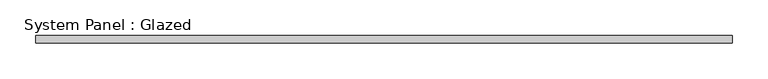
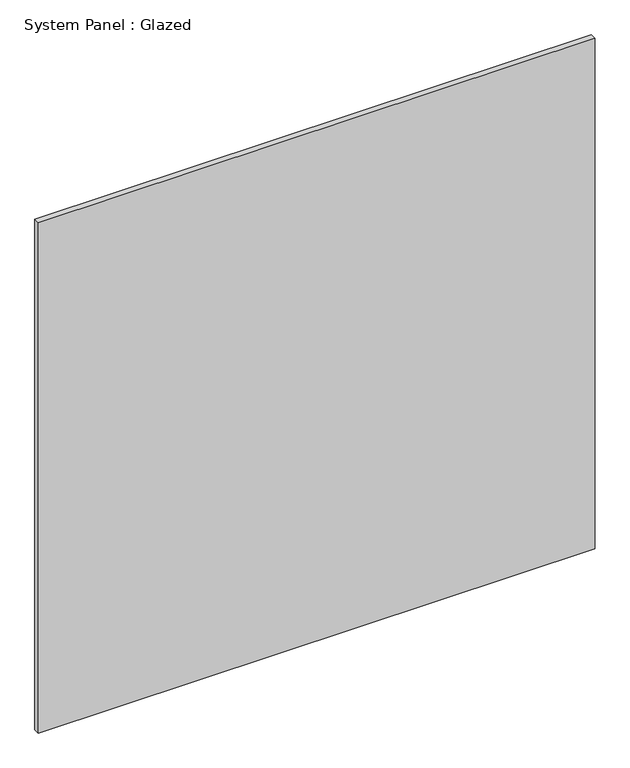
"""IFC4 building model written with IfcOpenShell, lengths in millimetres: plate geometry, System Panel : Glazed."""

import ifcopenshell
import ifcopenshell.guid

model = None  # the IFC model being written
_history = None  # IfcOwnerHistory: only IFC2X3 demands one
_inside = {}  # id of a spatial element -> (the spatial element, [elements in it])
_under = {}  # id of a project, library or spatial element -> (it, [spatial elements below it])
_declared = {}  # id of a project -> (the project, [libraries it declares])
_typed = {}  # id of a type object -> (the type object, [elements of that type])
_made_of = {}  # id of a material, layer set ... -> (it, [elements and type objects made of it])


def new_model(schema):
    """Start an empty IFC model of exactly this schema.

    Asked for "IFC4X3", IfcOpenShell would pick the latest addendum, in which some entities
    have other attributes; the version numbers below select the first issue.
    IFC2X3 requires an IfcOwnerHistory on every rooted entity: one is made here for all.
    """
    global model, _history
    if schema == "IFC4X3":
        model = ifcopenshell.file(schema_version=(4, 3, 0, 0))
    else:
        model = ifcopenshell.file(schema=schema)
    _inside.clear()
    _under.clear()
    _declared.clear()
    _typed.clear()
    _made_of.clear()
    _history = None
    if model.schema == "IFC2X3":
        org = make("IfcOrganization", Name="unknown")
        user = make(
            "IfcPersonAndOrganization",
            ThePerson=make("IfcPerson", FamilyName="unknown"),
            TheOrganization=org,
        )
        app = make(
            "IfcApplication",
            ApplicationDeveloper=org,
            Version="unknown",
            ApplicationFullName="unknown",
            ApplicationIdentifier="unknown",
        )
        _history = make(
            "IfcOwnerHistory",
            OwningUser=user,
            OwningApplication=app,
            ChangeAction="ADDED",
            CreationDate=0,
        )
    return model


def make(cls, **values):
    """One entity of the class cls with the attributes given. An attribute that is None is left unset."""
    return model.create_entity(
        cls, **{name: value for name, value in values.items() if value is not None}
    )


def rooted(cls, **values):
    """An entity with a GlobalId (a new one), such as an element, a storey or a relation."""
    return make(cls, GlobalId=ifcopenshell.guid.new(), OwnerHistory=_history, **values)


def si_unit(unit_type, name, prefix=None):
    """IfcSIUnit, for example si_unit("LENGTHUNIT", "METRE", prefix="MILLI")."""
    return make("IfcSIUnit", UnitType=unit_type, Prefix=prefix, Name=name)


def assignment(units):
    """IfcUnitAssignment: the units of a project."""
    return None if units is None else make("IfcUnitAssignment", Units=units)


def point(xyz):
    """IfcCartesianPoint."""
    return None if xyz is None else make("IfcCartesianPoint", Coordinates=xyz)


def direction(xyz):
    """IfcDirection."""
    return None if xyz is None else make("IfcDirection", DirectionRatios=xyz)


def frame(location, z_axis=None, x_axis=None):
    """IfcAxis2Placement3D, a coordinate frame: its origin and axes. An axis left out is left unset."""
    return make(
        "IfcAxis2Placement3D",
        Location=point(location),
        Axis=direction(z_axis),
        RefDirection=direction(x_axis),
    )


def origin():
    """The frame at (0, 0, 0) with its axes left unset."""
    return frame((0.0, 0.0, 0.0))


def origin_with_axes():
    """The frame at (0, 0, 0) with the z axis (0, 0, 1) and the x axis (1, 0, 0) written out."""
    return frame((0.0, 0.0, 0.0), z_axis=(0.0, 0.0, 1.0), x_axis=(1.0, 0.0, 0.0))


def place(relative_to, where):
    """IfcLocalPlacement: puts the frame where relative to a parent placement (None: the world)."""
    return make(
        "IfcLocalPlacement", PlacementRelTo=relative_to, RelativePlacement=where
    )


def context(
    kind, dimensions, precision=None, world=None, true_north=None, identifier=None
):
    """IfcGeometricRepresentationContext, for example the 3D "Model" context."""
    return make(
        "IfcGeometricRepresentationContext",
        ContextIdentifier=identifier,
        ContextType=kind,
        CoordinateSpaceDimension=dimensions,
        Precision=precision,
        WorldCoordinateSystem=world,
        TrueNorth=true_north,
    )


def project(units=None, contexts=None):
    """IfcProject with its units and contexts."""
    return rooted(
        "IfcProject",
        Name="project",
        RepresentationContexts=contexts,
        UnitsInContext=assignment(units),
    )


def spatial(cls, under=None, at=None, **own):
    """A site, building, storey or space (cls), placed at a placement, below another one or the project."""
    s = rooted(cls, ObjectPlacement=at, **own)
    if under is not None:
        _under.setdefault(under.id(), (under, []))[1].append(s)
    return s


def polyline(points):
    """IfcPolyline through the points."""
    return make("IfcPolyline", Points=[point(p) for p in points])


def outline(outer, holes=None, kind="AREA"):
    """IfcArbitraryClosedProfileDef: a profile drawn as a closed curve; with holes, ...WithVoids."""
    if holes is None:
        return make("IfcArbitraryClosedProfileDef", ProfileType=kind, OuterCurve=outer)
    return make(
        "IfcArbitraryProfileDefWithVoids",
        ProfileType=kind,
        OuterCurve=outer,
        InnerCurves=holes,
    )


def extrude(swept, where, along, depth):
    """IfcExtrudedAreaSolid: the profile swept, set in the frame where, extruded along a direction by depth."""
    return make(
        "IfcExtrudedAreaSolid",
        SweptArea=swept,
        Position=where,
        ExtrudedDirection=direction(along),
        Depth=depth,
    )


def shape(context_of_items, identifier, shape_type, items):
    """IfcShapeRepresentation: the items that make up one representation, for example the "Body"."""
    return make(
        "IfcShapeRepresentation",
        ContextOfItems=context_of_items,
        RepresentationIdentifier=identifier,
        RepresentationType=shape_type,
        Items=items,
    )


def source(mapping_origin, context_of_items, identifier, shape_type, items):
    """IfcRepresentationMap: a shape defined once, which mapped items show again and again."""
    return make(
        "IfcRepresentationMap",
        MappingOrigin=mapping_origin,
        MappedRepresentation=shape(context_of_items, identifier, shape_type, items),
    )


def transform(
    local_origin,
    x_axis=None,
    y_axis=None,
    z_axis=None,
    scale=None,
    scale2=None,
    scale3=None,
    uniform=True,
):
    """IfcCartesianTransformationOperator3D, or its non-uniform kind. x_axis, y_axis, z_axis: its Axis1, 2, 3."""
    if uniform:
        return make(
            "IfcCartesianTransformationOperator3D",
            Axis1=direction(x_axis),
            Axis2=direction(y_axis),
            LocalOrigin=point(local_origin),
            Scale=scale,
            Axis3=direction(z_axis),
        )
    return make(
        "IfcCartesianTransformationOperator3DnonUniform",
        Axis1=direction(x_axis),
        Axis2=direction(y_axis),
        LocalOrigin=point(local_origin),
        Scale=scale,
        Axis3=direction(z_axis),
        Scale2=scale2,
        Scale3=scale3,
    )


def mapped(mapping_source, mapping_target):
    """IfcMappedItem: shows the shape of a source again, moved by a transform."""
    return make(
        "IfcMappedItem", MappingSource=mapping_source, MappingTarget=mapping_target
    )


def made_of(thing, what):
    """Note that an element or type object is made of a material, layer set ...; save() writes the relation."""
    if what is not None:
        _made_of.setdefault(what.id(), (what, []))[1].append(thing)
    return thing


def element(
    cls,
    number,
    at=None,
    inside=None,
    cuts=None,
    type_object=None,
    material=None,
    context=None,
    identifier="Body",
    shape_type=None,
    held_by="IfcProductDefinitionShape",
    body=None,
    shapes=None,
    **own,
):
    """One element of the class cls, such as IfcWall. Its Tag is "e" and its number.

    at: its placement. inside: the storey or other place that contains it. cuts: it is an
    opening in that element (IfcRelVoidsElement). A single representation is given by context,
    identifier, shape_type and body (its items); several are given by shapes. held_by: the class
    of the entity that holds the representations. save() writes the other relations.
    """
    e = rooted(cls, Tag="e%d" % number, ObjectPlacement=at, **own)
    if body is not None:
        shapes = [shape(context, identifier, shape_type, body)]
    if shapes is not None:
        e.Representation = make(held_by, Representations=shapes)
    if inside is not None:
        _inside.setdefault(inside.id(), (inside, []))[1].append(e)
    if cuts is not None:
        rooted(
            "IfcRelVoidsElement", RelatingBuildingElement=cuts, RelatedOpeningElement=e
        )
    if type_object is not None:
        _typed.setdefault(type_object.id(), (type_object, []))[1].append(e)
    return made_of(e, material)


def aggregate(whole, parts):
    """IfcRelAggregates: a whole, such as a stair, and the parts it consists of."""
    return rooted("IfcRelAggregates", RelatingObject=whole, RelatedObjects=parts)


def save(model, path):
    """Write the relations noted so far, then the file.

    IfcRelAggregates (storeys below a building ...), IfcRelContainedInSpatialStructure (elements
    in a storey), IfcRelDefinesByType, IfcRelAssociatesMaterial and IfcRelDeclares: one each for
    every whole, place, type object, material and project.
    """
    for whole, parts in _under.values():
        aggregate(whole, parts)
    for where, things in _inside.values():
        rooted(
            "IfcRelContainedInSpatialStructure",
            RelatedElements=things,
            RelatingStructure=where,
        )
    for kind, things in _typed.values():
        rooted("IfcRelDefinesByType", RelatedObjects=things, RelatingType=kind)
    for what, things in _made_of.values():
        rooted("IfcRelAssociatesMaterial", RelatedObjects=things, RelatingMaterial=what)
    for by, libraries in _declared.values():
        rooted("IfcRelDeclares", RelatingContext=by, RelatedDefinitions=libraries)
    model.write(path)


def system_panel_glazed_ecabccd1(model_context):
    return source(origin(), model_context, "Body", "SweptSolid", [
        extrude(outline(polyline([(485.0000002, -5.0), (-485.0000002, -5.0), (-485.0000002, 5.0), (485.0000002, 5.0), (485.0000002, -5.0)])), origin_with_axes(), (0.0, 0.0, 1.0), 940.0),
    ])


if __name__ == "__main__":
    model = new_model("IFC4")
    model_context = context("Model", 3, world=origin())
    ifc_project = project(units=[si_unit("LENGTHUNIT", "METRE", prefix="MILLI")], contexts=[model_context])
    site = spatial("IfcSite", under=ifc_project)
    building = spatial("IfcBuilding", under=site)
    placement = place(None, origin())
    system_panel_glazed_shape = system_panel_glazed_ecabccd1(model_context)
    element("IfcPlate", 1, ObjectType="System Panel : Glazed", at=placement, inside=building, context=model_context, shape_type="MappedRepresentation", body=[
        mapped(system_panel_glazed_shape, transform((0.0, 0.0, 0.0), x_axis=(1.0, 0.0, 0.0), y_axis=(0.0, 1.0, 0.0), z_axis=(0.0, 0.0, 1.0))),
    ])
    save(model, "model.ifc")
